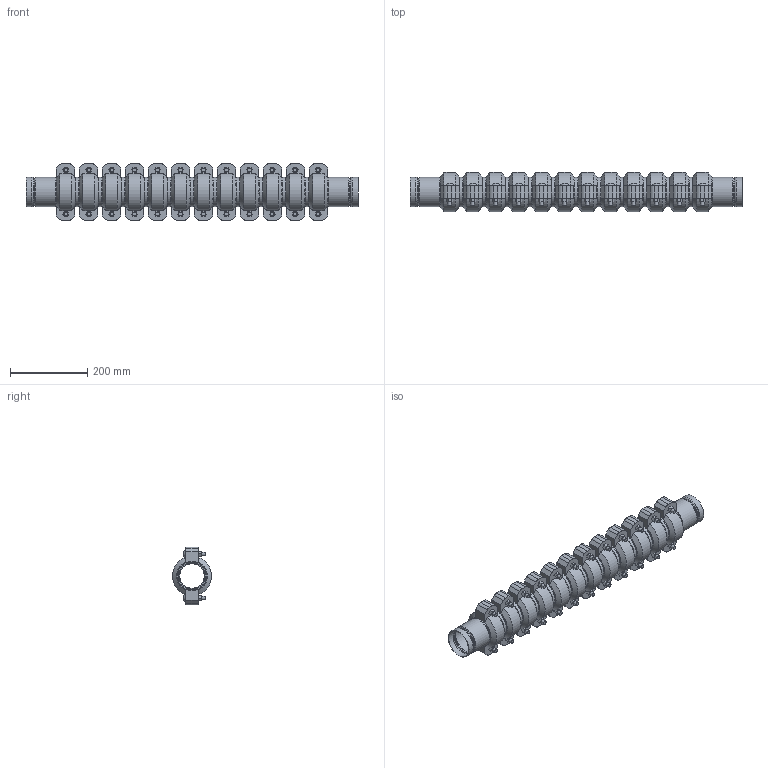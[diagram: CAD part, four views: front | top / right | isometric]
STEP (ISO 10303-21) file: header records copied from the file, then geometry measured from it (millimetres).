
FILE_DESCRIPTION(/* description */ ('VIC STRENGTHIN 100 EXPANSION JOINT 12 COUPLINGS NEUTRAL STYLE E155 (ST1)','CAx-IF Rec.Pracs.---Representation and Presentation of Product Manufacturing Information (PMI)---4.0---2014-10-13'),/* implementation_level */ '2;1');
FILE_NAME(/* name */ 'C:\Users\Vjadhav\AppData\Roaming\Autodesk\ApplicationPlugins\Victaulic.Temp\A29\Victaulic_SS-StrengThin 100_Expansion Joint_Neutral_12 Couplings_Style E155 (ST1)_12 Coup_Neut_02.5 (76.1) (65).stp',/* time_stamp */ '2021-07-20T17:42:17+05:00',/* author */ ('kkamble'),/* organization */ ('Victaulic'),/* preprocessor_version */ 'ST-DEVELOPER v17.2',/* originating_system */ 'Autodesk Inventor 2019',/* authorisation */ '');
FILE_SCHEMA (('AP242_MANAGED_MODEL_BASED_3D_ENGINEERING_MIM_LF { 1 0 10303 442 1 1 4 }'));
Length unit declared in the file: inch
Products named in the file (4): E155-02.5 (76.1); E494G-02.5 (76.1); Nipple-02.5 (76.1); 075-02.5 (76.1)
Assembly tree (25 placements, depth 2):
  E155-02.5 (76.1)
    E494G-02.5 (76.1)  x2
    Nipple-02.5 (76.1)  x11
    075-02.5 (76.1)  x12
Bounding box: 860.55 x 101.25 x 149.86 mm (x, y, z)
Volume: 3562916.2 mm3; surface area: 969766.8 mm2
Topology: 25 solids, 49 shells, 884 faces, 2196 edges, 1534 vertices
Faces by surface type: plane 510, cylinder 266, cone 52, torus 32, bspline 24
Full cylindrical faces by diameter (mm): 9.525 x48, 11.43 x24, 62.713 x11, 67.158 x2, 69.063 x2, 69.85 x12, 70.358 x2, 72.263 x24, 73 x6, 76.2 x63
Entity records: 3912 total; most frequent: CARTESIAN_POINT 703, DIRECTION 695, ORIENTED_EDGE 556, AXIS2_PLACEMENT_3D 297, EDGE_CURVE 278, VERTEX_POINT 199, CIRCLE 167, EDGE_LOOP 127
